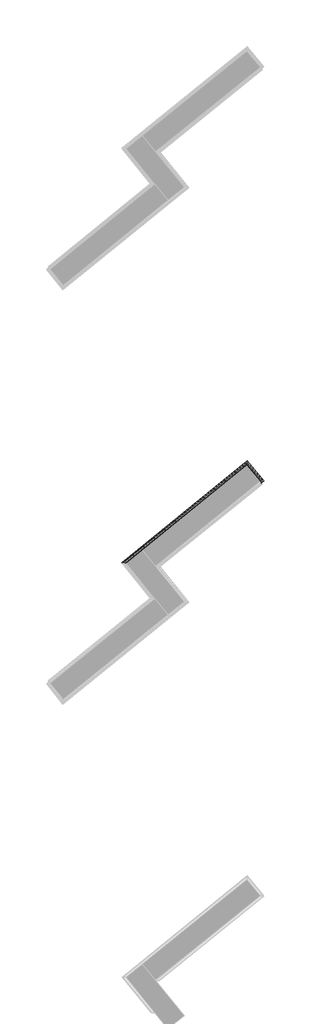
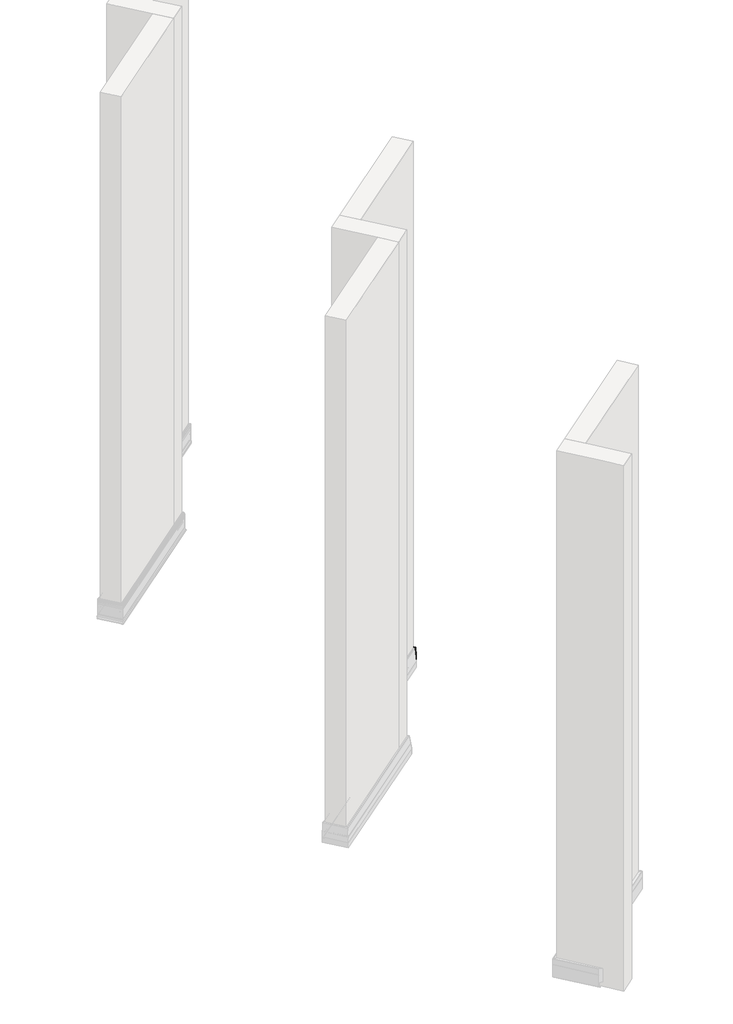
# One storey, part 16 of 21: 1 proxy.
"""IFC4 building model written with IfcOpenShell, lengths in millimetres."""

from ifc_helpers import new_model, si_unit, frame, origin, place, context, project, spatial, polyline, circle_curve, ellipse_curve, element, save
from ifc_brep_helpers import plane_surface, cylinder_surface, revolved_surface, advanced_brep

model = new_model("IFC4")

# Units and contexts
model_context = context("Model", 3, world=origin())
ifc_project = project(units=[si_unit("LENGTHUNIT", "METRE", prefix="MILLI")], contexts=[model_context])

# Site, building, storey
site = spatial("IfcSite", under=ifc_project)
building = spatial("IfcBuilding", under=site)
storey = spatial("IfcBuildingStorey", under=building, Name="Izofleks 2D View", Elevation=0.0)

# Proxy
placement = place(None, origin())
element("IfcBuildingElementProxy", 1, Name="Wall Sweeps", at=placement, inside=storey, context=model_context, shape_type="AdvancedBrep", body=[
    advanced_brep(
    [(9936.4416807, -5157.7208806, 59.6555585), (9928.4432003, -5156.8802064, 59.6555585), (9937.2022618, -5157.8008209, 101.9914791), (9940.4152885, -5158.1385236, 103.6588452), (9942.8462371, -5158.3940266, 103.6588452), (9942.8462371, -5158.3940266, 101.6586119), (9947.4875761, -5158.881851, 101.6586119), (9947.4875761, -5158.881851, 102.9586119), (9944.6746434, -5158.5861998, 102.9586119), (9944.6746434, -5158.5861998, 104.9585348), (9940.2321385, -5158.1192737, 104.9585348), (9935.2927529, -5157.6001234, 101.8554536), (9924.9874593, -5156.5169934, 31.5183531), (9924.9874593, -5156.5169934, 3.1913868), (9929.2035135, -5156.9601185, 3.1913868), (9929.2035135, -5156.9601185, 0.1913868), (9931.0319198, -5157.1522918, 0.1913868), (9931.0319198, -5157.1522918, 4.4913868), (9926.7899511, -5156.7064429, 4.4913868), (9926.7899511, -5156.7064429, 28.7657538), (9939.8718918, -5158.0814103, 28.7657538), (9940.1414591, -5158.109743, 27.7479135), (9938.7780416, -5157.966442, 27.7479135), (9938.0927921, -5157.8944194, 27.1399853), (9940.841113, -5158.1832795, 18.30079), (9938.5371548, -5157.9411238, 18.30079), (9938.5310764, -5157.9404849, 16.99999), (9945.5630003, -5158.6795699, 16.99999), (9945.5630003, -5158.6795699, 0.0), (9947.3913925, -5158.8717417, 0.0), (9947.3913925, -5158.8717417, 54.99999), (9945.5630003, -5158.6795699, 53.99999), (9945.5630003, -5158.6795699, 47.88979), (9941.3551682, -5158.2373089, 47.88979), (9942.3049916, -5158.3371394, 48.3626585), (9943.4580733, -5158.4583332, 48.3626585), (9944.1540121, -5158.5314793, 48.9497419), (9941.466477, -5158.2490079, 59.2434073), (9940.2233562, -5158.1183507, 59.6555585), (10604.9742325, -4766.7862173, 59.6555585), (10602.8846597, -4768.47832, 59.6555585), (10602.1977707, -4769.0345517, 59.2434073), (10600.7127675, -4770.2370836, 48.9497419), (10601.0973099, -4769.9256873, 48.3626585), (10601.7344476, -4769.4097433, 48.3626585), (10602.2592746, -4768.9847468, 47.88979), (10599.934228, -4770.8675324, 47.88979), (10599.934228, -4770.8675324, 53.99999), (10598.9239461, -4771.6856426, 54.99999), (10598.9239461, -4771.6856426, 0.0), (10599.934228, -4770.8675324, 0.0), (10599.934228, -4770.8675324, 16.99999), (10603.8197325, -4767.721113, 16.99999), (10603.8163739, -4767.7238327, 18.30079), (10602.5433169, -4768.754734, 18.30079), (10604.0619074, -4767.5250036, 27.1399853), (10603.6832713, -4767.831617, 27.7479135), (10602.9299121, -4768.4416753, 27.7479135), (10603.0788621, -4768.321058, 28.7657538), (10610.3073161, -4762.4675713, 28.7657538), (10610.3073161, -4762.4675713, 4.4913868), (10607.9634074, -4764.3656312, 4.4913868), (10607.9634074, -4764.3656312, 0.1913868), (10608.9736971, -4763.5475147, 0.1913868), (10608.9736971, -4763.5475147, 3.1913868), (10611.3032868, -4761.6610502, 3.1913868), (10611.3032868, -4761.6610502, 31.5183531), (10605.609075, -4766.272132, 101.8554536), (10602.879807, -4768.4822496, 104.9585348), (10600.4250915, -4770.470039, 104.9585348), (10600.4250915, -4770.470039, 102.9586119), (10598.8707996, -4771.7286798, 102.9586119), (10598.8707996, -4771.7286798, 101.6586119), (10601.4353813, -4769.6519225, 101.6586119), (10601.4353813, -4769.6519225, 103.6588452), (10602.7786071, -4768.5641997, 103.6588452), (10604.5539718, -4767.1265377, 101.9914791), (10609.3938098, -4763.2073142, 59.6555585), (10531.4017247, -4675.9317366, 59.6555585), (10531.0042546, -4679.713412, 59.6555585), (10530.8735973, -4680.9565328, 59.2434073), (10530.591126, -4683.6440679, 48.9497419), (10530.6642721, -4682.9481292, 48.3626585), (10530.7854659, -4681.7950475, 48.3626585), (10530.8852963, -4680.845224, 47.88979), (10530.4430354, -4685.0530562, 47.88979), (10530.4430354, -4685.0530562, 53.99999), (10530.2508636, -4686.8814484, 54.99999), (10530.2508636, -4686.8814484, 0.0), (10593.1829027, -4764.5960445, 0.0), (10530.4430354, -4685.0530562, 0.0), (10530.4430354, -4685.0530562, 16.99999), (10531.1821203, -4678.0211323, 16.99999), (10531.1814815, -4678.0272106, 18.30079), (10530.9393257, -4680.3311689, 18.30079), (10531.2281859, -4677.582848, 27.1399853), (10531.1561633, -4678.2680975, 27.7479135), (10531.0128623, -4679.631515, 27.7479135), (10531.041195, -4679.3619477, 28.7657538), (10532.4161623, -4666.280007, 28.7657538), (10532.4161623, -4666.280007, 4.4913868), (10531.9703135, -4670.5219756, 4.4913868), (10531.9703135, -4670.5219756, 0.1913868), (10532.1624867, -4668.6935694, 0.1913868), (10532.1624867, -4668.6935694, 3.1913868), (10532.6056119, -4664.4775152, 3.1913868), (10532.6056119, -4664.4775152, 31.5183531), (10531.5224819, -4674.7828088, 101.8554536), (10531.0033315, -4679.7221943, 104.9585348), (10530.5364054, -4684.1646993, 104.9585348), (10530.5364054, -4684.1646993, 102.9586119), (10530.2407543, -4686.977632, 102.9586119), (10530.2407543, -4686.977632, 101.6586119), (10530.7285787, -4682.336293, 101.6586119), (10530.7285787, -4682.336293, 103.6588452), (10530.9840817, -4679.9053443, 103.6588452), (10531.3217844, -4676.6923177, 101.9914791), (10532.2423988, -4667.9332562, 59.6555585), (10025.1059886, -5095.9397026, 0.0)],
    [
        (0, 1),
        (1, 2, ellipse_curve(frame((10402.4598845, -5206.7013675, 31.7042015), z_axis=(0.10452846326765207, 0.9945218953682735, 0.0), x_axis=(-0.9945218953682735, 0.1045284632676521, 0.0)), 478.2640711, 338.1837679)),
        (2, 3, ellipse_curve(frame((9940.3436914, -5158.1309984, 101.3299275), z_axis=(0.10452846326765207, 0.9945218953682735, 0.0), x_axis=(-0.9945218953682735, 0.10452846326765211, 0.0)), 3.2943737, 2.329474)),
        (3, 4),
        (4, 5),
        (5, 6),
        (6, 7),
        (7, 8),
        (8, 9),
        (9, 10),
        (10, 11, ellipse_curve(frame((9940.7231238, -5158.1708784, 101.0246073), z_axis=(-0.10452846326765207, -0.9945218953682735, 0.0), x_axis=(0.9945218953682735, -0.1045284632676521, 0.0)), 5.5852753, 3.949386)),
        (11, 12, ellipse_curve(frame((10402.4598845, -5206.7013675, 31.7042015), z_axis=(-0.10452846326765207, -0.9945218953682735, 0.0), x_axis=(0.9945218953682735, -0.10452846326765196, 0.0)), 480.1025487, 339.4837679)),
        (12, 13),
        (13, 14),
        (14, 15),
        (15, 16),
        (16, 17),
        (17, 18),
        (18, 19),
        (19, 20),
        (20, 21),
        (21, 22),
        (22, 23, ellipse_curve(frame((9938.7794481, -5157.9665898, 27.2479135), z_axis=(-0.10452846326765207, -0.9945218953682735, 0.0), x_axis=(0.9945218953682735, -0.10452846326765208, 0.0)), 0.7071082, 0.500001)),
        (23, 24),
        (24, 25),
        (25, 26, ellipse_curve(frame((9938.7013325, -5157.9583796, 17.649995), z_axis=(-0.10452846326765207, -0.9945218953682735, 0.0), x_axis=(0.9945218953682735, -0.10452846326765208, 0.0)), 0.935051, 0.6611809)),
        (26, 27),
        (27, 28),
        (28, 29),
        (29, 30),
        (30, 31, ellipse_curve(frame((9947.0409144, -5158.8349049, 53.9789482), z_axis=(-0.10452846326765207, -0.9945218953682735, 0.0), x_axis=(0.9945218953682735, -0.1045284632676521, 0.0)), 1.4863528, 1.0510102)),
        (31, 32),
        (32, 33),
        (33, 34),
        (34, 35),
        (35, 36, ellipse_curve(frame((9943.4615184, -5158.4586953, 48.8626585), z_axis=(-0.10452846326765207, -0.9945218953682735, 0.0), x_axis=(0.9945218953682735, -0.10452846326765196, 0.0)), 0.7071153, 0.500006)),
        (36, 37),
        (37, 38, ellipse_curve(frame((9940.2008788, -5158.1159882, 58.4674875), z_axis=(-0.10452846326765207, -0.9945218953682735, 0.0), x_axis=(0.9945218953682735, -0.10452846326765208, 0.0)), 1.6803381, 1.1881785)),
        (38, 0),
        (39, 40),
        (40, 41, circle_curve(frame((10602.8970796, -4768.4682625, 58.4674875), z_axis=(0.6293203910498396, -0.7771459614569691, 0.0), x_axis=(0.7771459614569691, 0.6293203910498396, 0.0)), 1.1881785)),
        (41, 42),
        (42, 43, circle_curve(frame((10601.0954063, -4769.9272288, 48.8626585), z_axis=(0.6293203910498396, -0.7771459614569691, 0.0), x_axis=(0.003807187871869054, 0.0030829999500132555, -0.9999880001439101)), 0.500006)),
        (43, 44),
        (44, 45),
        (45, 46),
        (46, 47),
        (47, 48, circle_curve(frame((10599.1176035, -4771.528822, 53.9789482), z_axis=(0.6293203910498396, -0.7771459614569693, 0.0), x_axis=(-0.18425834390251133, -0.1492094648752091, 0.9714861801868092)), 1.0510102)),
        (48, 49),
        (49, 50),
        (50, 51),
        (51, 52),
        (52, 53, circle_curve(frame((10603.7256571, -4767.7972937, 17.649995), z_axis=(0.6293203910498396, -0.7771459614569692, 0.0), x_axis=(0.14228387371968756, 0.11521920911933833, 0.9830970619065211)), 0.6611809)),
        (53, 54),
        (54, 55),
        (55, 56, circle_curve(frame((10603.6824942, -4767.8322463, 27.2479135), z_axis=(0.6293203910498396, -0.7771459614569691, 0.0), x_axis=(0.001554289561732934, 0.0012586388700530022, 0.9999980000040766)), 0.500001)),
        (56, 57),
        (57, 58),
        (58, 59),
        (59, 60),
        (60, 61),
        (61, 62),
        (62, 63),
        (63, 64),
        (64, 65),
        (65, 66),
        (66, 67, circle_curve(frame((10347.4748872, -4975.3050757, 31.7042015), z_axis=(0.6293203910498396, -0.7771459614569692, 0.0), x_axis=(0.7603726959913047, 0.6157376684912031, 0.2066409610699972)), 339.4837679)),
        (67, 68, circle_curve(frame((10602.608512, -4768.7019399, 101.0246073), z_axis=(0.6293203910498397, -0.7771459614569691, 0.0), x_axis=(0.06869295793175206, 0.05562646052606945, 0.9960858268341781)), 3.949386)),
        (68, 69),
        (69, 70),
        (70, 71),
        (71, 72),
        (72, 73),
        (73, 74),
        (74, 75),
        (75, 76, circle_curve(frame((10602.8181682, -4768.5321637, 101.3299275), z_axis=(-0.6293203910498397, 0.7771459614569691, 0.0), x_axis=(0.745148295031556, 0.60340919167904, 0.2839918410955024)), 2.329474)),
        (76, 77, circle_curve(frame((10347.4748872, -4975.3050757, 31.7042015), z_axis=(-0.6293203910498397, 0.7771459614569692, 0.0), x_axis=(0.7744869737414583, 0.6271671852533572, 0.08265137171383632)), 338.1837679)),
        (77, 39),
        (39, 78),
        (78, 79),
        (79, 40),
        (79, 80, ellipse_curve(frame((10531.006617, -4679.6909347, 58.4674875), z_axis=(0.9945218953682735, -0.10452846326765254, 0.0), x_axis=(-0.1045284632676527, -0.9945218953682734, 0.0)), 1.6803381, 1.1881785)),
        (80, 41),
        (80, 81),
        (81, 42),
        (81, 82, ellipse_curve(frame((10530.66391, -4682.9515743, 48.8626585), z_axis=(0.9945218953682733, -0.10452846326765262, 0.0), x_axis=(-0.1045284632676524, -0.9945218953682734, 0.0)), 0.7071153, 0.500006)),
        (82, 43),
        (82, 83),
        (83, 44),
        (83, 84),
        (84, 45),
        (84, 85),
        (85, 46),
        (85, 86),
        (86, 47),
        (86, 87, ellipse_curve(frame((10530.2877003, -4686.5309703, 53.9789482), z_axis=(0.9945218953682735, -0.1045284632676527, 0.0), x_axis=(-0.10452846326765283, -0.9945218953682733, 0.0)), 1.4863528, 1.0510102)),
        (87, 48),
        (87, 88),
        (88, 89),
        (89, 49),
        (88, 90),
        (90, 50),
        (90, 91),
        (91, 51),
        (91, 92),
        (92, 52),
        (92, 93, ellipse_curve(frame((10531.1642257, -4678.1913884, 17.649995), z_axis=(0.9945218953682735, -0.10452846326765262, 0.0), x_axis=(-0.1045284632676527, -0.9945218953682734, 0.0)), 0.935051, 0.6611809)),
        (93, 53),
        (93, 94),
        (94, 54),
        (94, 95),
        (95, 55),
        (95, 96, ellipse_curve(frame((10531.1560154, -4678.2695039, 27.2479135), z_axis=(0.9945218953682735, -0.10452846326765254, 0.0), x_axis=(-0.1045284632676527, -0.9945218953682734, 0.0)), 0.7071082, 0.500001)),
        (96, 56),
        (96, 97),
        (97, 57),
        (97, 98),
        (98, 58),
        (98, 99),
        (99, 59),
        (99, 100),
        (100, 60),
        (100, 101),
        (101, 61),
        (101, 102),
        (102, 62),
        (102, 103),
        (103, 63),
        (103, 104),
        (104, 64),
        (104, 105),
        (105, 65),
        (105, 106),
        (106, 66),
        (106, 107, ellipse_curve(frame((10482.4212378, -5141.9499403, 31.7042015), z_axis=(0.9945218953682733, -0.1045284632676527, 0.0), x_axis=(-0.10452846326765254, -0.9945218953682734, 0.0)), 480.1025487, 339.4837679)),
        (107, 67),
        (107, 108, ellipse_curve(frame((10530.9517269, -4680.2131797, 101.0246073), z_axis=(0.9945218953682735, -0.10452846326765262, 0.0), x_axis=(-0.10452846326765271, -0.9945218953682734, 0.0)), 5.5852753, 3.949386)),
        (108, 68),
        (108, 109),
        (109, 69),
        (109, 110),
        (110, 70),
        (110, 111),
        (111, 71),
        (111, 112),
        (112, 72),
        (112, 113),
        (113, 73),
        (113, 114),
        (114, 74),
        (114, 115),
        (115, 75),
        (115, 116, ellipse_curve(frame((10530.9916068, -4679.8337473, 101.3299275), z_axis=(-0.9945218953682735, 0.10452846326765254, 0.0), x_axis=(0.10452846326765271, 0.9945218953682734, 0.0)), 3.2943737, 2.329474)),
        (116, 76),
        (116, 117, ellipse_curve(frame((10482.4212378, -5141.9499403, 31.7042015), z_axis=(-0.9945218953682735, 0.10452846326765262, 0.0), x_axis=(0.1045284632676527, 0.9945218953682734, 0.0)), 478.2640711, 338.1837679)),
        (117, 77),
        (117, 78),
        (78, 0),
        (38, 79),
        (37, 80),
        (36, 81),
        (35, 82),
        (34, 83),
        (33, 84),
        (32, 85),
        (31, 86),
        (30, 87),
        (29, 118),
        (118, 88),
        (28, 90),
        (27, 91),
        (26, 92),
        (25, 93),
        (24, 94),
        (23, 95),
        (22, 96),
        (21, 97),
        (20, 98),
        (19, 99),
        (18, 100),
        (17, 101),
        (16, 102),
        (15, 103),
        (14, 104),
        (13, 105),
        (12, 106),
        (11, 107),
        (10, 108),
        (9, 109),
        (8, 110),
        (7, 111),
        (6, 112),
        (5, 113),
        (4, 114),
        (3, 115),
        (2, 116),
        (1, 117),
    ],
    [
        plane_surface(frame((9947.3913925, -5158.8717417, -304.8), z_axis=(-0.10452846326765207, -0.9945218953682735, 0.0), x_axis=(0.9945218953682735, -0.10452846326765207, 0.0))),
        plane_surface(frame((10598.9239461, -4771.6856426, 0.0), z_axis=(0.6293203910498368, -0.7771459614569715, 0.0), x_axis=(-0.7771459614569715, -0.6293203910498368, 0.0))),
        plane_surface(frame((10604.9742325, -4766.7862173, 59.6555585), z_axis=(0.0, 0.0, 1.0), x_axis=(-0.6293203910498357, 0.7771459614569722, 0.0))),
        cylinder_surface(frame((10602.8970796, -4768.4682625, 58.4674875), z_axis=(0.6293203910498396, -0.7771459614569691, 0.0), x_axis=(0.7771459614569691, 0.6293203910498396, 0.0)), 1.1881785),
        plane_surface(frame((10602.1977707, -4769.0345517, 59.2434073), z_axis=(-0.7640923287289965, -0.6187497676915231, 0.1825147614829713), x_axis=(-0.6293203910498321, 0.7771459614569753, 0.0))),
        cylinder_surface(frame((10601.0954063, -4769.9272288, 48.8626585), z_axis=(0.6293203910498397, -0.7771459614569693, 0.0), x_axis=(0.003807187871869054, 0.0030829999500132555, -0.9999880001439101)), 0.500006),
        plane_surface(frame((10601.0973099, -4769.9256873, 48.3626585), z_axis=(0.0, 0.0, -1.0), x_axis=(-0.6293203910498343, 0.7771459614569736, 0.0))),
        plane_surface(frame((10601.7344476, -4769.4097433, 48.3626585), z_axis=(-0.4457526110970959, -0.36096334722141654, -0.8191520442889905), x_axis=(-0.6293203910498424, 0.7771459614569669, 0.0))),
        plane_surface(frame((10602.2592746, -4768.9847468, 47.88979), z_axis=(0.0, 0.0, 1.0), x_axis=(-0.629320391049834, 0.7771459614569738, 0.0))),
        plane_surface(frame((10599.934228, -4770.8675324, 47.88979), z_axis=(0.7771459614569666, 0.6293203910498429, 0.0), x_axis=(-0.6293203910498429, 0.7771459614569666, 0.0))),
        cylinder_surface(frame((10599.1176035, -4771.528822, 53.9789482), z_axis=(0.6293203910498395, -0.7771459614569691, 0.0), x_axis=(-0.18425834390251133, -0.1492094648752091, 0.9714861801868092)), 1.0510102),
        plane_surface(frame((10598.9239461, -4771.6856426, 54.99999), z_axis=(-0.7771459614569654, -0.6293203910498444, 0.0), x_axis=(-0.6293203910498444, 0.7771459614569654, 0.0))),
        plane_surface(frame((10598.9239461, -4771.6856426, 0.0), z_axis=(0.0, 0.0, -1.0), x_axis=(-0.6293203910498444, 0.7771459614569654, 0.0))),
        plane_surface(frame((10599.934228, -4770.8675324, 0.0), z_axis=(0.7771459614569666, 0.6293203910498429, 0.0), x_axis=(-0.6293203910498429, 0.7771459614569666, 0.0))),
        plane_surface(frame((10599.934228, -4770.8675324, 16.99999), z_axis=(0.0, 0.0, -1.0), x_axis=(-0.6293203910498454, 0.7771459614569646, 0.0))),
        cylinder_surface(frame((10603.7256571, -4767.7972937, 17.649995), z_axis=(0.6293203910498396, -0.7771459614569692, 0.0), x_axis=(0.14228387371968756, 0.11521920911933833, 0.9830970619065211)), 0.6611809),
        plane_surface(frame((10603.8163739, -4767.7238327, 18.30079), z_axis=(0.0, 0.0, 1.0000000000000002), x_axis=(-0.6293203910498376, 0.7771459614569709, 0.0))),
        plane_surface(frame((10602.5433169, -4768.754734, 18.30079), z_axis=(0.7588248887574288, 0.6144842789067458, -0.2158561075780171), x_axis=(-0.629320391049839, 0.7771459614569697, 0.0))),
        cylinder_surface(frame((10603.6824942, -4767.8322463, 27.2479135), z_axis=(0.6293203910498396, -0.7771459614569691, 0.0), x_axis=(0.001554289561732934, 0.0012586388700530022, 0.9999980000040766)), 0.500001),
        plane_surface(frame((10603.6832713, -4767.831617, 27.7479135), z_axis=(0.0, 0.0, 1.0), x_axis=(-0.6293203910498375, 0.7771459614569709, 0.0))),
        plane_surface(frame((10602.9299121, -4768.4416753, 27.7479135), z_axis=(0.7637237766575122, 0.6184513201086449, -0.18505122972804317), x_axis=(-0.6293203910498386, 0.77714596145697, 0.0))),
        plane_surface(frame((10603.0788621, -4768.321058, 28.7657538), z_axis=(0.0, 0.0, -1.0000000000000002), x_axis=(-0.6293203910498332, 0.7771459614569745, 0.0))),
        plane_surface(frame((10610.3073161, -4762.4675713, 28.7657538), z_axis=(-0.7771459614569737, -0.6293203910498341, 0.0), x_axis=(-0.6293203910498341, 0.7771459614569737, 0.0))),
        plane_surface(frame((10610.3073161, -4762.4675713, 4.4913868), z_axis=(0.0, 0.0, 1.0), x_axis=(-0.6293203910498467, 0.7771459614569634, 0.0))),
        plane_surface(frame((10607.9634074, -4764.3656312, 4.4913868), z_axis=(-0.7771459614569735, -0.6293203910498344, 0.0), x_axis=(-0.6293203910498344, 0.7771459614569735, 0.0))),
        plane_surface(frame((10607.9634074, -4764.3656312, 0.1913868), z_axis=(0.0, 0.0, -1.0000000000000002), x_axis=(-0.629320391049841, 0.7771459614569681, 0.0))),
        plane_surface(frame((10608.9736971, -4763.5475147, 0.1913868), z_axis=(0.777145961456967, 0.6293203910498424, 0.0), x_axis=(-0.6293203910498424, 0.777145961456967, 0.0))),
        plane_surface(frame((10608.9736971, -4763.5475147, 3.1913868), z_axis=(0.0, 0.0, -1.0000000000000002), x_axis=(-0.6293203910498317, 0.7771459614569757, 0.0))),
        plane_surface(frame((10611.3032868, -4761.6610502, 3.1913868), z_axis=(0.7771459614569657, 0.6293203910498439, 0.0), x_axis=(-0.6293203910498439, 0.7771459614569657, 0.0))),
        cylinder_surface(frame((10347.4748872, -4975.3050757, 31.7042015), z_axis=(0.6293203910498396, -0.7771459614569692, 0.0), x_axis=(0.7603726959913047, 0.6157376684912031, 0.2066409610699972)), 339.4837679),
        cylinder_surface(frame((10602.608512, -4768.7019399, 101.0246073), z_axis=(0.6293203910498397, -0.7771459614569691, 0.0), x_axis=(0.06869295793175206, 0.05562646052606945, 0.9960858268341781)), 3.949386),
        plane_surface(frame((10602.879807, -4768.4822496, 104.9585348), z_axis=(0.0, 0.0, 1.0), x_axis=(-0.6293203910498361, 0.777145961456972, 0.0))),
        plane_surface(frame((10600.4250915, -4770.470039, 104.9585348), z_axis=(-0.777145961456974, -0.6293203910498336, 0.0), x_axis=(-0.6293203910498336, 0.777145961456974, 0.0))),
        plane_surface(frame((10600.4250915, -4770.470039, 102.9586119), z_axis=(0.0, 0.0, 1.0), x_axis=(-0.6293203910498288, 0.7771459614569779, 0.0))),
        plane_surface(frame((10598.8707996, -4771.7286798, 102.9586119), z_axis=(-0.7771459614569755, -0.6293203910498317, 0.0), x_axis=(-0.6293203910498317, 0.7771459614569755, 0.0))),
        plane_surface(frame((10598.8707996, -4771.7286798, 101.6586119), z_axis=(0.0, 0.0, -1.0), x_axis=(-0.6293203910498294, 0.7771459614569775, 0.0))),
        plane_surface(frame((10601.4353813, -4769.6519225, 101.6586119), z_axis=(0.7771459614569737, 0.6293203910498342, 0.0), x_axis=(-0.6293203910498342, 0.7771459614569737, 0.0))),
        plane_surface(frame((10601.4353813, -4769.6519225, 103.6588452), z_axis=(0.0, 0.0, -1.0000000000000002), x_axis=(-0.6293203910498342, 0.7771459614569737, 0.0))),
        revolved_surface(polyline([(10531.261424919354, -4676.6177799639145, 101.9914791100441), (10604.553971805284, -4767.126537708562, 101.9914791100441)]), (10602.8181682, -4768.5321637, 101.3299275), (-0.6293203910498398, 0.7771459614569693, 0.0)),
        revolved_surface(polyline([(10531.514219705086, -4667.034029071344, 59.65555380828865), (10957.166101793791, -5192.670327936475, 59.65555380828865)]), (10347.4748872, -4975.3050757, 31.7042015), (-0.6293203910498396, 0.777145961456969, 0.0)),
        plane_surface(frame((10609.3938098, -4763.2073142, 59.6555585), z_axis=(0.0, 0.0, 1.0000000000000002), x_axis=(-0.6293203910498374, 0.777145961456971, 0.0))),
        plane_surface(frame((10531.4017247, -4675.9317366, 59.6555585), z_axis=(0.0, 0.0, 1.0), x_axis=(-0.7771459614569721, -0.6293203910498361, 0.0))),
        cylinder_surface(frame((10527.0334835, -4682.9083148, 58.4674875), z_axis=(0.7771459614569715, 0.6293203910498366, 0.0), x_axis=(-0.6293203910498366, 0.7771459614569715, 0.0)), 1.1881785),
        plane_surface(frame((10530.8735973, -4680.9565328, 59.2434073), z_axis=(0.6187497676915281, -0.7640923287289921, 0.18251476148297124), x_axis=(-0.777145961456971, -0.6293203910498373, 0.0))),
        cylinder_surface(frame((10528.4924498, -4684.7099881, 48.8626585), z_axis=(0.7771459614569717, 0.6293203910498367, 0.0), x_axis=(-0.0030829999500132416, 0.003807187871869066, -0.9999880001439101)), 0.500006),
        plane_surface(frame((10530.6642721, -4682.9481292, 48.3626585), z_axis=(0.0, 0.0, -1.0000000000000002), x_axis=(-0.7771459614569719, -0.6293203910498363, 0.0))),
        plane_surface(frame((10530.7854659, -4681.7950475, 48.3626585), z_axis=(0.3609633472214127, -0.44575261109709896, -0.8191520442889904), x_axis=(-0.7771459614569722, -0.6293203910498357, 0.0))),
        plane_surface(frame((10530.8852963, -4680.845224, 47.88979), z_axis=(0.0, 0.0, 1.0000000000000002), x_axis=(-0.7771459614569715, -0.6293203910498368, 0.0))),
        plane_surface(frame((10530.4430354, -4685.0530562, 47.88979), z_axis=(-0.629320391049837, 0.7771459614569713, 0.0), x_axis=(-0.7771459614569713, -0.629320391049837, 0.0))),
        cylinder_surface(frame((10530.0940429, -4686.687791, 53.9789482), z_axis=(0.7771459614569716, 0.6293203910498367, 0.0), x_axis=(0.14920946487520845, -0.18425834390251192, 0.9714861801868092)), 1.0510102),
        plane_surface(frame((10530.2508636, -4686.8814484, 54.99999), z_axis=(0.6293203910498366, -0.7771459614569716, 0.0), x_axis=(-0.7771459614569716, -0.6293203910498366, 0.0))),
        plane_surface(frame((10530.2508636, -4686.8814484, 0.0), z_axis=(0.0, 0.0, -1.0), x_axis=(-0.7771459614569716, -0.6293203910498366, 0.0))),
        plane_surface(frame((10530.4430354, -4685.0530562, 0.0), z_axis=(-0.629320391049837, 0.7771459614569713, 0.0), x_axis=(-0.7771459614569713, -0.629320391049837, 0.0))),
        plane_surface(frame((10530.4430354, -4685.0530562, 16.99999), z_axis=(0.0, 0.0, -1.0), x_axis=(-0.7771459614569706, -0.629320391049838, 0.0))),
        cylinder_surface(frame((10526.3625147, -4682.0797373, 17.649995), z_axis=(0.7771459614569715, 0.6293203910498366, 0.0), x_axis=(-0.1152192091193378, 0.142283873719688, 0.9830970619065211)), 0.6611809),
        plane_surface(frame((10531.1814815, -4678.0272106, 18.30079), z_axis=(0.0, 0.0, 1.0), x_axis=(-0.777145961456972, -0.6293203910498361, 0.0))),
        plane_surface(frame((10530.9393257, -4680.3311689, 18.30079), z_axis=(-0.6144842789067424, 0.7588248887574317, -0.21585610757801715), x_axis=(-0.7771459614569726, -0.6293203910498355, 0.0))),
        cylinder_surface(frame((10526.3974673, -4682.1229002, 27.2479135), z_axis=(0.7771459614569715, 0.6293203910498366, 0.0), x_axis=(-0.0012586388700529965, 0.001554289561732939, 0.9999980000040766)), 0.500001),
        plane_surface(frame((10531.1561633, -4678.2680975, 27.7479135), z_axis=(0.0, 0.0, 1.0), x_axis=(-0.7771459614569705, -0.629320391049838, 0.0))),
        plane_surface(frame((10531.0128623, -4679.631515, 27.7479135), z_axis=(-0.6184513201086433, 0.7637237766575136, -0.18505122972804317), x_axis=(-0.7771459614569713, -0.629320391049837, 0.0))),
        plane_surface(frame((10531.041195, -4679.3619477, 28.7657538), z_axis=(0.0, 0.0, -1.0), x_axis=(-0.7771459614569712, -0.6293203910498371, 0.0))),
        plane_surface(frame((10532.4161623, -4666.280007, 28.7657538), z_axis=(0.6293203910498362, -0.777145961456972, 0.0), x_axis=(-0.777145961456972, -0.6293203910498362, 0.0))),
        plane_surface(frame((10532.4161623, -4666.280007, 4.4913868), z_axis=(0.0, 0.0, 1.0), x_axis=(-0.7771459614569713, -0.629320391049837, 0.0))),
        plane_surface(frame((10531.9703135, -4670.5219756, 4.4913868), z_axis=(0.6293203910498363, -0.7771459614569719, 0.0), x_axis=(-0.7771459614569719, -0.6293203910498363, 0.0))),
        plane_surface(frame((10531.9703135, -4670.5219756, 0.1913868), z_axis=(0.0, 0.0, -1.0), x_axis=(-0.7771459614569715, -0.6293203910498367, 0.0))),
        plane_surface(frame((10532.1624867, -4668.6935694, 0.1913868), z_axis=(-0.6293203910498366, 0.7771459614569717, 0.0), x_axis=(-0.7771459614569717, -0.6293203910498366, 0.0))),
        plane_surface(frame((10532.1624867, -4668.6935694, 3.1913868), z_axis=(0.0, 0.0, -1.0000000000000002), x_axis=(-0.7771459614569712, -0.6293203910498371, 0.0))),
        plane_surface(frame((10532.6056119, -4664.4775152, 3.1913868), z_axis=(-0.6293203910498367, 0.7771459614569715, 0.0), x_axis=(-0.7771459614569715, -0.6293203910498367, 0.0))),
        cylinder_surface(frame((10733.8702967, -4938.3305073, 31.7042015), z_axis=(0.7771459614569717, 0.6293203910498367, 0.0), x_axis=(-0.6157376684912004, 0.7603726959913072, 0.2066409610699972)), 339.4837679),
        cylinder_surface(frame((10527.2671609, -4683.1968824, 101.0246073), z_axis=(0.7771459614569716, 0.6293203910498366, 0.0), x_axis=(-0.0556264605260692, 0.06869295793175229, 0.9960858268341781)), 3.949386),
        plane_surface(frame((10531.0033315, -4679.7221943, 104.9585348), z_axis=(0.0, 0.0, 1.0), x_axis=(-0.7771459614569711, -0.6293203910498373, 0.0))),
        plane_surface(frame((10530.5364054, -4684.1646993, 104.9585348), z_axis=(0.6293203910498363, -0.7771459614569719, 0.0), x_axis=(-0.7771459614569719, -0.6293203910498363, 0.0))),
        plane_surface(frame((10530.5364054, -4684.1646993, 102.9586119), z_axis=(0.0, 0.0, 1.0000000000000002), x_axis=(-0.7771459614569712, -0.6293203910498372, 0.0))),
        plane_surface(frame((10530.2407543, -4686.977632, 102.9586119), z_axis=(0.6293203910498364, -0.7771459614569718, 0.0), x_axis=(-0.7771459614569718, -0.6293203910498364, 0.0))),
        plane_surface(frame((10530.2407543, -4686.977632, 101.6586119), z_axis=(0.0, 0.0, -1.0000000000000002), x_axis=(-0.777145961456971, -0.6293203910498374, 0.0))),
        plane_surface(frame((10530.7285787, -4682.336293, 101.6586119), z_axis=(-0.629320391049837, 0.7771459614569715, 0.0), x_axis=(-0.7771459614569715, -0.629320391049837, 0.0))),
        plane_surface(frame((10530.7285787, -4682.336293, 103.6588452), z_axis=(0.0, 0.0, -1.0000000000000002), x_axis=(-0.7771459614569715, -0.629320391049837, 0.0))),
        revolved_surface(polyline([(9937.127724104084, -5157.861180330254, 101.9914791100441), (10531.396322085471, -4676.631958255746, 101.9914791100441)]), (10527.0973847, -4682.9872262, 101.3299275), (-0.7771459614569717, -0.6293203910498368, 0.0)),
        revolved_surface(polyline([(9927.543973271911, -5157.608385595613, 59.65555380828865), (10533.141625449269, -4667.205076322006, 59.65555380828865)]), (10733.8702967, -4938.3305073, 31.7042015), (-0.7771459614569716, -0.6293203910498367, 0.0)),
        plane_surface(frame((10532.2423988, -4667.9332562, 59.6555585), z_axis=(0.0, 0.0, 1.0), x_axis=(-0.7771459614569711, -0.6293203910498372, 0.0))),
    ],
    [
        (0, [[1, 2, 3, 4, 5, 6, 7, 8, 9, 10, 11, 12, 13, 14, 15, 16, 17, 18, 19, 20, 21, 22, 23, 24, 25, 26, 27, 28, 29, 30, 31, 32, 33, 34, 35, 36, 37, 38, 39]]),
        (1, [[40, 41, 42, 43, 44, 45, 46, 47, 48, 49, 50, 51, 52, 53, 54, 55, 56, 57, 58, 59, 60, 61, 62, 63, 64, 65, 66, 67, 68, 69, 70, 71, 72, 73, 74, 75, 76, 77, 78]]),
        (2, [[-40, 79, 80, 81]]),
        (3, [[-41, -81, 82, 83]]),
        (4, [[-42, -83, 84, 85]]),
        (5, [[-43, -85, 86, 87]]),
        (6, [[-44, -87, 88, 89]]),
        (7, [[-45, -89, 90, 91]]),
        (8, [[-46, -91, 92, 93]]),
        (9, [[-47, -93, 94, 95]]),
        (10, [[-48, -95, 96, 97]]),
        (11, [[-49, -97, 98, 99, 100]]),
        (12, [[-50, -100, -99, 101, 102]]),
        (13, [[-51, -102, 103, 104]]),
        (14, [[-52, -104, 105, 106]]),
        (15, [[-53, -106, 107, 108]]),
        (16, [[-54, -108, 109, 110]]),
        (17, [[-55, -110, 111, 112]]),
        (18, [[-56, -112, 113, 114]]),
        (19, [[-57, -114, 115, 116]]),
        (20, [[-58, -116, 117, 118]]),
        (21, [[-59, -118, 119, 120]]),
        (22, [[-60, -120, 121, 122]]),
        (23, [[-61, -122, 123, 124]]),
        (24, [[-62, -124, 125, 126]]),
        (25, [[-63, -126, 127, 128]]),
        (26, [[-64, -128, 129, 130]]),
        (27, [[-65, -130, 131, 132]]),
        (28, [[-66, -132, 133, 134]]),
        (29, [[-67, -134, 135, 136]]),
        (30, [[-68, -136, 137, 138]]),
        (31, [[-69, -138, 139, 140]]),
        (32, [[-70, -140, 141, 142]]),
        (33, [[-71, -142, 143, 144]]),
        (34, [[-72, -144, 145, 146]]),
        (35, [[-73, -146, 147, 148]]),
        (36, [[-74, -148, 149, 150]]),
        (37, [[-75, -150, 151, 152]]),
        (38, [[-76, -152, 153, 154]]),
        (39, [[-77, -154, 155, 156]]),
        (40, [[-78, -156, 157, -79]]),
        (41, [[-80, 158, -39, 159]]),
        (42, [[-82, -159, -38, 160]]),
        (43, [[-84, -160, -37, 161]]),
        (44, [[-86, -161, -36, 162]]),
        (45, [[-88, -162, -35, 163]]),
        (46, [[-90, -163, -34, 164]]),
        (47, [[-92, -164, -33, 165]]),
        (48, [[-94, -165, -32, 166]]),
        (49, [[-96, -166, -31, 167]]),
        (50, [[-98, -167, -30, 168, 169]]),
        (51, [[-101, -169, -168, -29, 170]]),
        (52, [[-103, -170, -28, 171]]),
        (53, [[-105, -171, -27, 172]]),
        (54, [[-107, -172, -26, 173]]),
        (55, [[-109, -173, -25, 174]]),
        (56, [[-111, -174, -24, 175]]),
        (57, [[-113, -175, -23, 176]]),
        (58, [[-115, -176, -22, 177]]),
        (59, [[-117, -177, -21, 178]]),
        (60, [[-119, -178, -20, 179]]),
        (61, [[-121, -179, -19, 180]]),
        (62, [[-123, -180, -18, 181]]),
        (63, [[-125, -181, -17, 182]]),
        (64, [[-127, -182, -16, 183]]),
        (65, [[-129, -183, -15, 184]]),
        (66, [[-131, -184, -14, 185]]),
        (67, [[-133, -185, -13, 186]]),
        (68, [[-135, -186, -12, 187]]),
        (69, [[-137, -187, -11, 188]]),
        (70, [[-139, -188, -10, 189]]),
        (71, [[-141, -189, -9, 190]]),
        (72, [[-143, -190, -8, 191]]),
        (73, [[-145, -191, -7, 192]]),
        (74, [[-147, -192, -6, 193]]),
        (75, [[-149, -193, -5, 194]]),
        (76, [[-151, -194, -4, 195]]),
        (77, [[-153, -195, -3, 196]]),
        (78, [[-155, -196, -2, 197]]),
        (79, [[-157, -197, -1, -158]]),
    ],
),
])

save(model, "model.ifc")
